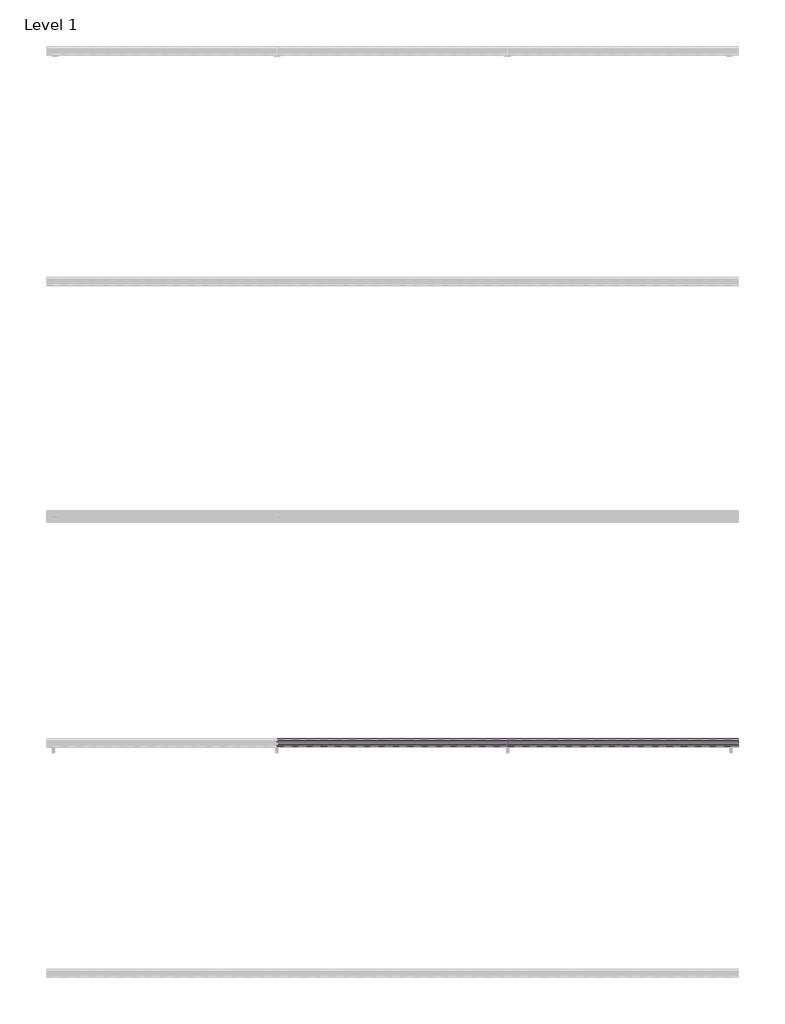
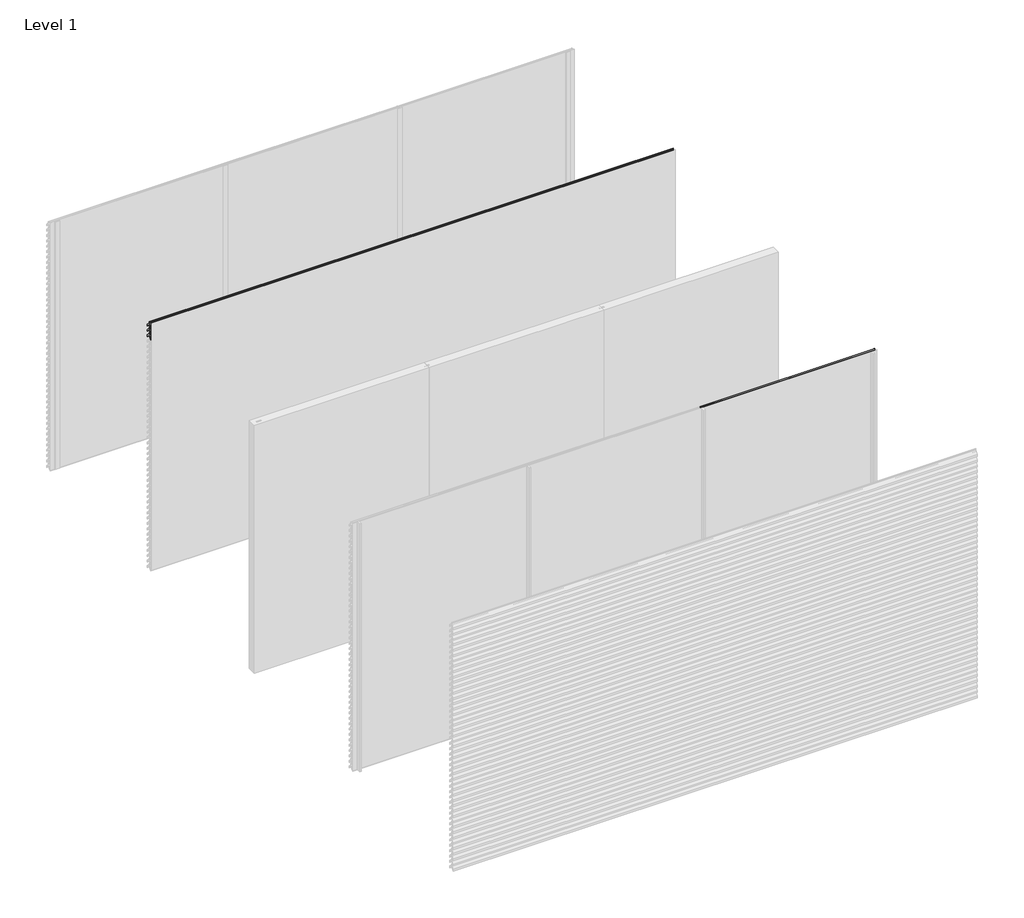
# One storey, part 7 of 9: 85 proxies.
"""IFC4 building model written with IfcOpenShell, lengths in millimetres."""

from ifc_helpers import new_model, si_unit, frame, origin, place, context, project, spatial, polyline, outline, extrude, element, save

model = new_model("IFC4")

# Units and contexts
model_context = context("Model", 3, world=origin())
ifc_project = project(units=[si_unit("LENGTHUNIT", "METRE", prefix="MILLI")], contexts=[model_context])

# Site, building, storey
site = spatial("IfcSite", under=ifc_project)
building = spatial("IfcBuilding", under=site)
storey = spatial("IfcBuildingStorey", under=building, Name="Level 1", Elevation=0.0)

# Proxies
placement = place(None, origin())
element("IfcBuildingElementProxy", 1, Name="Wall Sweeps", at=placement, inside=storey, context=model_context, shape_type="SweptSolid", body=[
    extrude(outline(polyline([(-1926.0, 2942.0), (-1926.0, 2919.0), (-1961.5, 2954.5), (-1997.0, 2919.0), (-1997.0, 2942.0), (-1962.5, 2976.5), (-1962.5, 2990.0), (-1960.5, 2990.0), (-1960.5, 2976.5), (-1926.0, 2942.0)])), frame((0.0, 0.0, 0.0), z_axis=(1.0, 0.0, 0.0), x_axis=(0.0, 1.0, 0.0)), (0.0, 0.0, 1.0), 6000.0),
])
element("IfcBuildingElementProxy", 2, Name="Wall Sweeps", at=placement, inside=storey, context=model_context, shape_type="SweptSolid", body=[
    extrude(outline(polyline([(-1926.0, 2877.0), (-1926.0, 2854.0), (-1961.5, 2889.5), (-1997.0, 2854.0), (-1997.0, 2877.0), (-1962.5, 2911.5), (-1962.5, 2925.0), (-1960.5, 2925.0), (-1960.5, 2911.5), (-1926.0, 2877.0)])), frame((0.0, 0.0, 0.0), z_axis=(1.0, 0.0, 0.0), x_axis=(0.0, 1.0, 0.0)), (0.0, 0.0, 1.0), 6000.0),
])
element("IfcBuildingElementProxy", 3, Name="Wall Sweeps", at=placement, inside=storey, context=model_context, shape_type="SweptSolid", body=[
    extrude(outline(polyline([(-1926.0, 2812.0), (-1926.0, 2789.0), (-1961.5, 2824.5), (-1997.0, 2789.0), (-1997.0, 2812.0), (-1962.5, 2846.5), (-1962.5, 2860.0), (-1960.5, 2860.0), (-1960.5, 2846.5), (-1926.0, 2812.0)])), frame((0.0, 0.0, 0.0), z_axis=(1.0, 0.0, 0.0), x_axis=(0.0, 1.0, 0.0)), (0.0, 0.0, 1.0), 6000.0),
])
element("IfcBuildingElementProxy", 4, Name="Wall Sweeps", at=placement, inside=storey, context=model_context, shape_type="SweptSolid", body=[
    extrude(outline(polyline([(-5926.0, 2292.0), (-5926.0, 2269.0), (-5961.5, 2304.5), (-5997.0, 2269.0), (-5997.0, 2292.0), (-5962.5, 2326.5), (-5962.5, 2340.0), (-5960.5, 2340.0), (-5960.5, 2326.5), (-5926.0, 2292.0)])), frame((2000.0, 0.0, 0.0), z_axis=(1.0, 0.0, 0.0), x_axis=(0.0, 1.0, 0.0)), (0.0, 0.0, 1.0), 2000.0),
])
element("IfcBuildingElementProxy", 5, Name="Wall Sweeps", at=placement, inside=storey, context=model_context, shape_type="SweptSolid", body=[
    extrude(outline(polyline([(-5926.0, 2227.0), (-5926.0, 2204.0), (-5961.5, 2239.5), (-5997.0, 2204.0), (-5997.0, 2227.0), (-5962.5, 2261.5), (-5962.5, 2275.0), (-5960.5, 2275.0), (-5960.5, 2261.5), (-5926.0, 2227.0)])), frame((2000.0, 0.0, 0.0), z_axis=(1.0, 0.0, 0.0), x_axis=(0.0, 1.0, 0.0)), (0.0, 0.0, 1.0), 2000.0),
])
element("IfcBuildingElementProxy", 6, Name="Wall Sweeps", at=placement, inside=storey, context=model_context, shape_type="SweptSolid", body=[
    extrude(outline(polyline([(-5926.0, 2162.0), (-5926.0, 2139.0), (-5961.5, 2174.5), (-5997.0, 2139.0), (-5997.0, 2162.0), (-5962.5, 2196.5), (-5962.5, 2210.0), (-5960.5, 2210.0), (-5960.5, 2196.5), (-5926.0, 2162.0)])), frame((2000.0, 0.0, 0.0), z_axis=(1.0, 0.0, 0.0), x_axis=(0.0, 1.0, 0.0)), (0.0, 0.0, 1.0), 2000.0),
])
element("IfcBuildingElementProxy", 7, Name="Wall Sweeps", at=placement, inside=storey, context=model_context, shape_type="SweptSolid", body=[
    extrude(outline(polyline([(-5926.0, 2097.0), (-5926.0, 2074.0), (-5961.5, 2109.5), (-5997.0, 2074.0), (-5997.0, 2097.0), (-5962.5, 2131.5), (-5962.5, 2145.0), (-5960.5, 2145.0), (-5960.5, 2131.5), (-5926.0, 2097.0)])), frame((2000.0, 0.0, 0.0), z_axis=(1.0, 0.0, 0.0), x_axis=(0.0, 1.0, 0.0)), (0.0, 0.0, 1.0), 2000.0),
])
element("IfcBuildingElementProxy", 8, Name="Wall Sweeps", at=placement, inside=storey, context=model_context, shape_type="SweptSolid", body=[
    extrude(outline(polyline([(-5926.0, 2032.0), (-5926.0, 2009.0), (-5961.5, 2044.5), (-5997.0, 2009.0), (-5997.0, 2032.0), (-5962.5, 2066.5), (-5962.5, 2080.0), (-5960.5, 2080.0), (-5960.5, 2066.5), (-5926.0, 2032.0)])), frame((2000.0, 0.0, 0.0), z_axis=(1.0, 0.0, 0.0), x_axis=(0.0, 1.0, 0.0)), (0.0, 0.0, 1.0), 2000.0),
])
element("IfcBuildingElementProxy", 9, Name="Wall Sweeps", at=placement, inside=storey, context=model_context, shape_type="SweptSolid", body=[
    extrude(outline(polyline([(-5926.0, 1967.0), (-5926.0, 1944.0), (-5961.5, 1979.5), (-5997.0, 1944.0), (-5997.0, 1967.0), (-5962.5, 2001.5), (-5962.5, 2015.0), (-5960.5, 2015.0), (-5960.5, 2001.5), (-5926.0, 1967.0)])), frame((2000.0, 0.0, 0.0), z_axis=(1.0, 0.0, 0.0), x_axis=(0.0, 1.0, 0.0)), (0.0, 0.0, 1.0), 2000.0),
])
element("IfcBuildingElementProxy", 10, Name="Wall Sweeps", at=placement, inside=storey, context=model_context, shape_type="SweptSolid", body=[
    extrude(outline(polyline([(-5926.0, 1902.0), (-5926.0, 1879.0), (-5961.5, 1914.5), (-5997.0, 1879.0), (-5997.0, 1902.0), (-5962.5, 1936.5), (-5962.5, 1950.0), (-5960.5, 1950.0), (-5960.5, 1936.5), (-5926.0, 1902.0)])), frame((2000.0, 0.0, 0.0), z_axis=(1.0, 0.0, 0.0), x_axis=(0.0, 1.0, 0.0)), (0.0, 0.0, 1.0), 2000.0),
])
element("IfcBuildingElementProxy", 11, Name="Wall Sweeps", at=placement, inside=storey, context=model_context, shape_type="SweptSolid", body=[
    extrude(outline(polyline([(-5926.0, 1837.0), (-5926.0, 1814.0), (-5961.5, 1849.5), (-5997.0, 1814.0), (-5997.0, 1837.0), (-5962.5, 1871.5), (-5962.5, 1885.0), (-5960.5, 1885.0), (-5960.5, 1871.5), (-5926.0, 1837.0)])), frame((2000.0, 0.0, 0.0), z_axis=(1.0, 0.0, 0.0), x_axis=(0.0, 1.0, 0.0)), (0.0, 0.0, 1.0), 2000.0),
])
element("IfcBuildingElementProxy", 12, Name="Wall Sweeps", at=placement, inside=storey, context=model_context, shape_type="SweptSolid", body=[
    extrude(outline(polyline([(-5926.0, 1772.0), (-5926.0, 1749.0), (-5961.5, 1784.5), (-5997.0, 1749.0), (-5997.0, 1772.0), (-5962.5, 1806.5), (-5962.5, 1820.0), (-5960.5, 1820.0), (-5960.5, 1806.5), (-5926.0, 1772.0)])), frame((2000.0, 0.0, 0.0), z_axis=(1.0, 0.0, 0.0), x_axis=(0.0, 1.0, 0.0)), (0.0, 0.0, 1.0), 2000.0),
])
element("IfcBuildingElementProxy", 13, Name="Wall Sweeps", at=placement, inside=storey, context=model_context, shape_type="SweptSolid", body=[
    extrude(outline(polyline([(-5926.0, 1707.0), (-5926.0, 1684.0), (-5961.5, 1719.5), (-5997.0, 1684.0), (-5997.0, 1707.0), (-5962.5, 1741.5), (-5962.5, 1755.0), (-5960.5, 1755.0), (-5960.5, 1741.5), (-5926.0, 1707.0)])), frame((2000.0, 0.0, 0.0), z_axis=(1.0, 0.0, 0.0), x_axis=(0.0, 1.0, 0.0)), (0.0, 0.0, 1.0), 2000.0),
])
element("IfcBuildingElementProxy", 14, Name="Wall Sweeps", at=placement, inside=storey, context=model_context, shape_type="SweptSolid", body=[
    extrude(outline(polyline([(-5926.0, 1642.0), (-5926.0, 1619.0), (-5961.5, 1654.5), (-5997.0, 1619.0), (-5997.0, 1642.0), (-5962.5, 1676.5), (-5962.5, 1690.0), (-5960.5, 1690.0), (-5960.5, 1676.5), (-5926.0, 1642.0)])), frame((2000.0, 0.0, 0.0), z_axis=(1.0, 0.0, 0.0), x_axis=(0.0, 1.0, 0.0)), (0.0, 0.0, 1.0), 2000.0),
])
element("IfcBuildingElementProxy", 15, Name="Wall Sweeps", at=placement, inside=storey, context=model_context, shape_type="SweptSolid", body=[
    extrude(outline(polyline([(-5926.0, 1577.0), (-5926.0, 1554.0), (-5961.5, 1589.5), (-5997.0, 1554.0), (-5997.0, 1577.0), (-5962.5, 1611.5), (-5962.5, 1625.0), (-5960.5, 1625.0), (-5960.5, 1611.5), (-5926.0, 1577.0)])), frame((2000.0, 0.0, 0.0), z_axis=(1.0, 0.0, 0.0), x_axis=(0.0, 1.0, 0.0)), (0.0, 0.0, 1.0), 2000.0),
])
element("IfcBuildingElementProxy", 16, Name="Wall Sweeps", at=placement, inside=storey, context=model_context, shape_type="SweptSolid", body=[
    extrude(outline(polyline([(-5926.0, 1512.0), (-5926.0, 1489.0), (-5961.5, 1524.5), (-5997.0, 1489.0), (-5997.0, 1512.0), (-5962.5, 1546.5), (-5962.5, 1560.0), (-5960.5, 1560.0), (-5960.5, 1546.5), (-5926.0, 1512.0)])), frame((2000.0, 0.0, 0.0), z_axis=(1.0, 0.0, 0.0), x_axis=(0.0, 1.0, 0.0)), (0.0, 0.0, 1.0), 2000.0),
])
element("IfcBuildingElementProxy", 17, Name="Wall Sweeps", at=placement, inside=storey, context=model_context, shape_type="SweptSolid", body=[
    extrude(outline(polyline([(-5926.0, 1447.0), (-5926.0, 1424.0), (-5961.5, 1459.5), (-5997.0, 1424.0), (-5997.0, 1447.0), (-5962.5, 1481.5), (-5962.5, 1495.0), (-5960.5, 1495.0), (-5960.5, 1481.5), (-5926.0, 1447.0)])), frame((2000.0, 0.0, 0.0), z_axis=(1.0, 0.0, 0.0), x_axis=(0.0, 1.0, 0.0)), (0.0, 0.0, 1.0), 2000.0),
])
element("IfcBuildingElementProxy", 18, Name="Wall Sweeps", at=placement, inside=storey, context=model_context, shape_type="SweptSolid", body=[
    extrude(outline(polyline([(-5926.0, 1382.0), (-5926.0, 1359.0), (-5961.5, 1394.5), (-5997.0, 1359.0), (-5997.0, 1382.0), (-5962.5, 1416.5), (-5962.5, 1430.0), (-5960.5, 1430.0), (-5960.5, 1416.5), (-5926.0, 1382.0)])), frame((2000.0, 0.0, 0.0), z_axis=(1.0, 0.0, 0.0), x_axis=(0.0, 1.0, 0.0)), (0.0, 0.0, 1.0), 2000.0),
])
element("IfcBuildingElementProxy", 19, Name="Wall Sweeps", at=placement, inside=storey, context=model_context, shape_type="SweptSolid", body=[
    extrude(outline(polyline([(-5926.0, 1317.0), (-5926.0, 1294.0), (-5961.5, 1329.5), (-5997.0, 1294.0), (-5997.0, 1317.0), (-5962.5, 1351.5), (-5962.5, 1365.0), (-5960.5, 1365.0), (-5960.5, 1351.5), (-5926.0, 1317.0)])), frame((2000.0, 0.0, 0.0), z_axis=(1.0, 0.0, 0.0), x_axis=(0.0, 1.0, 0.0)), (0.0, 0.0, 1.0), 2000.0),
])
element("IfcBuildingElementProxy", 20, Name="Wall Sweeps", at=placement, inside=storey, context=model_context, shape_type="SweptSolid", body=[
    extrude(outline(polyline([(-5926.0, 1252.0), (-5926.0, 1229.0), (-5961.5, 1264.5), (-5997.0, 1229.0), (-5997.0, 1252.0), (-5962.5, 1286.5), (-5962.5, 1300.0), (-5960.5, 1300.0), (-5960.5, 1286.5), (-5926.0, 1252.0)])), frame((2000.0, 0.0, 0.0), z_axis=(1.0, 0.0, 0.0), x_axis=(0.0, 1.0, 0.0)), (0.0, 0.0, 1.0), 2000.0),
])
element("IfcBuildingElementProxy", 21, Name="Wall Sweeps", at=placement, inside=storey, context=model_context, shape_type="SweptSolid", body=[
    extrude(outline(polyline([(-5926.0, 1187.0), (-5926.0, 1164.0), (-5961.5, 1199.5), (-5997.0, 1164.0), (-5997.0, 1187.0), (-5962.5, 1221.5), (-5962.5, 1235.0), (-5960.5, 1235.0), (-5960.5, 1221.5), (-5926.0, 1187.0)])), frame((2000.0, 0.0, 0.0), z_axis=(1.0, 0.0, 0.0), x_axis=(0.0, 1.0, 0.0)), (0.0, 0.0, 1.0), 2000.0),
])
element("IfcBuildingElementProxy", 22, Name="Wall Sweeps", at=placement, inside=storey, context=model_context, shape_type="SweptSolid", body=[
    extrude(outline(polyline([(-5926.0, 1122.0), (-5926.0, 1099.0), (-5961.5, 1134.5), (-5997.0, 1099.0), (-5997.0, 1122.0), (-5962.5, 1156.5), (-5962.5, 1170.0), (-5960.5, 1170.0), (-5960.5, 1156.5), (-5926.0, 1122.0)])), frame((2000.0, 0.0, 0.0), z_axis=(1.0, 0.0, 0.0), x_axis=(0.0, 1.0, 0.0)), (0.0, 0.0, 1.0), 2000.0),
])
element("IfcBuildingElementProxy", 23, Name="Wall Sweeps", at=placement, inside=storey, context=model_context, shape_type="SweptSolid", body=[
    extrude(outline(polyline([(-5926.0, 1057.0), (-5926.0, 1034.0), (-5961.5, 1069.5), (-5997.0, 1034.0), (-5997.0, 1057.0), (-5962.5, 1091.5), (-5962.5, 1105.0), (-5960.5, 1105.0), (-5960.5, 1091.5), (-5926.0, 1057.0)])), frame((2000.0, 0.0, 0.0), z_axis=(1.0, 0.0, 0.0), x_axis=(0.0, 1.0, 0.0)), (0.0, 0.0, 1.0), 2000.0),
])
element("IfcBuildingElementProxy", 24, Name="Wall Sweeps", at=placement, inside=storey, context=model_context, shape_type="SweptSolid", body=[
    extrude(outline(polyline([(-5926.0, 992.0), (-5926.0, 969.0), (-5961.5, 1004.5), (-5997.0, 969.0), (-5997.0, 992.0), (-5962.5, 1026.5), (-5962.5, 1040.0), (-5960.5, 1040.0), (-5960.5, 1026.5), (-5926.0, 992.0)])), frame((2000.0, 0.0, 0.0), z_axis=(1.0, 0.0, 0.0), x_axis=(0.0, 1.0, 0.0)), (0.0, 0.0, 1.0), 2000.0),
])
element("IfcBuildingElementProxy", 25, Name="Wall Sweeps", at=placement, inside=storey, context=model_context, shape_type="SweptSolid", body=[
    extrude(outline(polyline([(-5926.0, 927.0), (-5926.0, 904.0), (-5961.5, 939.5), (-5997.0, 904.0), (-5997.0, 927.0), (-5962.5, 961.5), (-5962.5, 975.0), (-5960.5, 975.0), (-5960.5, 961.5), (-5926.0, 927.0)])), frame((2000.0, 0.0, 0.0), z_axis=(1.0, 0.0, 0.0), x_axis=(0.0, 1.0, 0.0)), (0.0, 0.0, 1.0), 2000.0),
])
element("IfcBuildingElementProxy", 26, Name="Wall Sweeps", at=placement, inside=storey, context=model_context, shape_type="SweptSolid", body=[
    extrude(outline(polyline([(-5926.0, 862.0), (-5926.0, 839.0), (-5961.5, 874.5), (-5997.0, 839.0), (-5997.0, 862.0), (-5962.5, 896.5), (-5962.5, 910.0), (-5960.5, 910.0), (-5960.5, 896.5), (-5926.0, 862.0)])), frame((2000.0, 0.0, 0.0), z_axis=(1.0, 0.0, 0.0), x_axis=(0.0, 1.0, 0.0)), (0.0, 0.0, 1.0), 2000.0),
])
element("IfcBuildingElementProxy", 27, Name="Wall Sweeps", at=placement, inside=storey, context=model_context, shape_type="SweptSolid", body=[
    extrude(outline(polyline([(-5926.0, 797.0), (-5926.0, 774.0), (-5961.5, 809.5), (-5997.0, 774.0), (-5997.0, 797.0), (-5962.5, 831.5), (-5962.5, 845.0), (-5960.5, 845.0), (-5960.5, 831.5), (-5926.0, 797.0)])), frame((2000.0, 0.0, 0.0), z_axis=(1.0, 0.0, 0.0), x_axis=(0.0, 1.0, 0.0)), (0.0, 0.0, 1.0), 2000.0),
])
element("IfcBuildingElementProxy", 28, Name="Wall Sweeps", at=placement, inside=storey, context=model_context, shape_type="SweptSolid", body=[
    extrude(outline(polyline([(-5926.0, 732.0), (-5926.0, 709.0), (-5961.5, 744.5), (-5997.0, 709.0), (-5997.0, 732.0), (-5962.5, 766.5), (-5962.5, 780.0), (-5960.5, 780.0), (-5960.5, 766.5), (-5926.0, 732.0)])), frame((2000.0, 0.0, 0.0), z_axis=(1.0, 0.0, 0.0), x_axis=(0.0, 1.0, 0.0)), (0.0, 0.0, 1.0), 2000.0),
])
element("IfcBuildingElementProxy", 29, Name="Wall Sweeps", at=placement, inside=storey, context=model_context, shape_type="SweptSolid", body=[
    extrude(outline(polyline([(-5926.0, 667.0), (-5926.0, 644.0), (-5961.5, 679.5), (-5997.0, 644.0), (-5997.0, 667.0), (-5962.5, 701.5), (-5962.5, 715.0), (-5960.5, 715.0), (-5960.5, 701.5), (-5926.0, 667.0)])), frame((2000.0, 0.0, 0.0), z_axis=(1.0, 0.0, 0.0), x_axis=(0.0, 1.0, 0.0)), (0.0, 0.0, 1.0), 2000.0),
])
element("IfcBuildingElementProxy", 30, Name="Wall Sweeps", at=placement, inside=storey, context=model_context, shape_type="SweptSolid", body=[
    extrude(outline(polyline([(-5926.0, 602.0), (-5926.0, 579.0), (-5961.5, 614.5), (-5997.0, 579.0), (-5997.0, 602.0), (-5962.5, 636.5), (-5962.5, 650.0), (-5960.5, 650.0), (-5960.5, 636.5), (-5926.0, 602.0)])), frame((2000.0, 0.0, 0.0), z_axis=(1.0, 0.0, 0.0), x_axis=(0.0, 1.0, 0.0)), (0.0, 0.0, 1.0), 2000.0),
])
element("IfcBuildingElementProxy", 31, Name="Wall Sweeps", at=placement, inside=storey, context=model_context, shape_type="SweptSolid", body=[
    extrude(outline(polyline([(-5926.0, 537.0), (-5926.0, 514.0), (-5961.5, 549.5), (-5997.0, 514.0), (-5997.0, 537.0), (-5962.5, 571.5), (-5962.5, 585.0), (-5960.5, 585.0), (-5960.5, 571.5), (-5926.0, 537.0)])), frame((2000.0, 0.0, 0.0), z_axis=(1.0, 0.0, 0.0), x_axis=(0.0, 1.0, 0.0)), (0.0, 0.0, 1.0), 2000.0),
])
element("IfcBuildingElementProxy", 32, Name="Wall Sweeps", at=placement, inside=storey, context=model_context, shape_type="SweptSolid", body=[
    extrude(outline(polyline([(-5926.0, 472.0), (-5926.0, 449.0), (-5961.5, 484.5), (-5997.0, 449.0), (-5997.0, 472.0), (-5962.5, 506.5), (-5962.5, 520.0), (-5960.5, 520.0), (-5960.5, 506.5), (-5926.0, 472.0)])), frame((2000.0, 0.0, 0.0), z_axis=(1.0, 0.0, 0.0), x_axis=(0.0, 1.0, 0.0)), (0.0, 0.0, 1.0), 2000.0),
])
element("IfcBuildingElementProxy", 33, Name="Wall Sweeps", at=placement, inside=storey, context=model_context, shape_type="SweptSolid", body=[
    extrude(outline(polyline([(-5926.0, 407.0), (-5926.0, 384.0), (-5961.5, 419.5), (-5997.0, 384.0), (-5997.0, 407.0), (-5962.5, 441.5), (-5962.5, 455.0), (-5960.5, 455.0), (-5960.5, 441.5), (-5926.0, 407.0)])), frame((2000.0, 0.0, 0.0), z_axis=(1.0, 0.0, 0.0), x_axis=(0.0, 1.0, 0.0)), (0.0, 0.0, 1.0), 2000.0),
])
element("IfcBuildingElementProxy", 34, Name="Wall Sweeps", at=placement, inside=storey, context=model_context, shape_type="SweptSolid", body=[
    extrude(outline(polyline([(-5926.0, 342.0), (-5926.0, 319.0), (-5961.5, 354.5), (-5997.0, 319.0), (-5997.0, 342.0), (-5962.5, 376.5), (-5962.5, 390.0), (-5960.5, 390.0), (-5960.5, 376.5), (-5926.0, 342.0)])), frame((2000.0, 0.0, 0.0), z_axis=(1.0, 0.0, 0.0), x_axis=(0.0, 1.0, 0.0)), (0.0, 0.0, 1.0), 2000.0),
])
element("IfcBuildingElementProxy", 35, Name="Wall Sweeps", at=placement, inside=storey, context=model_context, shape_type="SweptSolid", body=[
    extrude(outline(polyline([(-5926.0, 277.0), (-5926.0, 254.0), (-5961.5, 289.5), (-5997.0, 254.0), (-5997.0, 277.0), (-5962.5, 311.5), (-5962.5, 325.0), (-5960.5, 325.0), (-5960.5, 311.5), (-5926.0, 277.0)])), frame((2000.0, 0.0, 0.0), z_axis=(1.0, 0.0, 0.0), x_axis=(0.0, 1.0, 0.0)), (0.0, 0.0, 1.0), 2000.0),
])
element("IfcBuildingElementProxy", 36, Name="Wall Sweeps", at=placement, inside=storey, context=model_context, shape_type="SweptSolid", body=[
    extrude(outline(polyline([(-5926.0, 212.0), (-5926.0, 189.0), (-5961.5, 224.5), (-5997.0, 189.0), (-5997.0, 212.0), (-5962.5, 246.5), (-5962.5, 260.0), (-5960.5, 260.0), (-5960.5, 246.5), (-5926.0, 212.0)])), frame((2000.0, 0.0, 0.0), z_axis=(1.0, 0.0, 0.0), x_axis=(0.0, 1.0, 0.0)), (0.0, 0.0, 1.0), 2000.0),
])
element("IfcBuildingElementProxy", 37, Name="Wall Sweeps", at=placement, inside=storey, context=model_context, shape_type="SweptSolid", body=[
    extrude(outline(polyline([(-5926.0, 147.0), (-5926.0, 124.0), (-5961.5, 159.5), (-5997.0, 124.0), (-5997.0, 147.0), (-5962.5, 181.5), (-5962.5, 195.0), (-5960.5, 195.0), (-5960.5, 181.5), (-5926.0, 147.0)])), frame((2000.0, 0.0, 0.0), z_axis=(1.0, 0.0, 0.0), x_axis=(0.0, 1.0, 0.0)), (0.0, 0.0, 1.0), 2000.0),
])
element("IfcBuildingElementProxy", 38, Name="Wall Sweeps", at=placement, inside=storey, context=model_context, shape_type="SweptSolid", body=[
    extrude(outline(polyline([(-5926.0, 82.0), (-5926.0, 59.0), (-5961.5, 94.5), (-5997.0, 59.0), (-5997.0, 82.0), (-5962.5, 116.5), (-5962.5, 130.0), (-5960.5, 130.0), (-5960.5, 116.5), (-5926.0, 82.0)])), frame((2000.0, 0.0, 0.0), z_axis=(1.0, 0.0, 0.0), x_axis=(0.0, 1.0, 0.0)), (0.0, 0.0, 1.0), 2000.0),
])
element("IfcBuildingElementProxy", 39, Name="Wall Sweeps", at=placement, inside=storey, context=model_context, shape_type="SweptSolid", body=[
    extrude(outline(polyline([(-5926.0, 17.0), (-5926.0, -6.0), (-5961.5, 29.5), (-5997.0, -6.0), (-5997.0, 17.0), (-5962.5, 51.5), (-5962.5, 65.0), (-5960.5, 65.0), (-5960.5, 51.5), (-5926.0, 17.0)])), frame((2000.0, 0.0, 0.0), z_axis=(1.0, 0.0, 0.0), x_axis=(0.0, 1.0, 0.0)), (0.0, 0.0, 1.0), 2000.0),
])
element("IfcBuildingElementProxy", 40, Name="Wall Sweeps", at=placement, inside=storey, context=model_context, shape_type="SweptSolid", body=[
    extrude(outline(polyline([(-5926.0, 2942.0), (-5926.0, 2919.0), (-5961.5, 2954.5), (-5997.0, 2919.0), (-5997.0, 2942.0), (-5962.5, 2976.5), (-5962.5, 2990.0), (-5960.5, 2990.0), (-5960.5, 2976.5), (-5926.0, 2942.0)])), frame((4000.0, 0.0, 0.0), z_axis=(1.0, 0.0, 0.0), x_axis=(0.0, 1.0, 0.0)), (0.0, 0.0, 1.0), 2000.0),
])
element("IfcBuildingElementProxy", 41, Name="Wall Sweeps", at=placement, inside=storey, context=model_context, shape_type="SweptSolid", body=[
    extrude(outline(polyline([(-5926.0, 2877.0), (-5926.0, 2854.0), (-5961.5, 2889.5), (-5997.0, 2854.0), (-5997.0, 2877.0), (-5962.5, 2911.5), (-5962.5, 2925.0), (-5960.5, 2925.0), (-5960.5, 2911.5), (-5926.0, 2877.0)])), frame((4000.0, 0.0, 0.0), z_axis=(1.0, 0.0, 0.0), x_axis=(0.0, 1.0, 0.0)), (0.0, 0.0, 1.0), 2000.0),
])
element("IfcBuildingElementProxy", 42, Name="Wall Sweeps", at=placement, inside=storey, context=model_context, shape_type="SweptSolid", body=[
    extrude(outline(polyline([(-5926.0, 2812.0), (-5926.0, 2789.0), (-5961.5, 2824.5), (-5997.0, 2789.0), (-5997.0, 2812.0), (-5962.5, 2846.5), (-5962.5, 2860.0), (-5960.5, 2860.0), (-5960.5, 2846.5), (-5926.0, 2812.0)])), frame((4000.0, 0.0, 0.0), z_axis=(1.0, 0.0, 0.0), x_axis=(0.0, 1.0, 0.0)), (0.0, 0.0, 1.0), 2000.0),
])
element("IfcBuildingElementProxy", 43, Name="Wall Sweeps", at=placement, inside=storey, context=model_context, shape_type="SweptSolid", body=[
    extrude(outline(polyline([(-5926.0, 2747.0), (-5926.0, 2724.0), (-5961.5, 2759.5), (-5997.0, 2724.0), (-5997.0, 2747.0), (-5962.5, 2781.5), (-5962.5, 2795.0), (-5960.5, 2795.0), (-5960.5, 2781.5), (-5926.0, 2747.0)])), frame((4000.0, 0.0, 0.0), z_axis=(1.0, 0.0, 0.0), x_axis=(0.0, 1.0, 0.0)), (0.0, 0.0, 1.0), 2000.0),
])
element("IfcBuildingElementProxy", 44, Name="Wall Sweeps", at=placement, inside=storey, context=model_context, shape_type="SweptSolid", body=[
    extrude(outline(polyline([(-5926.0, 2682.0), (-5926.0, 2659.0), (-5961.5, 2694.5), (-5997.0, 2659.0), (-5997.0, 2682.0), (-5962.5, 2716.5), (-5962.5, 2730.0), (-5960.5, 2730.0), (-5960.5, 2716.5), (-5926.0, 2682.0)])), frame((4000.0, 0.0, 0.0), z_axis=(1.0, 0.0, 0.0), x_axis=(0.0, 1.0, 0.0)), (0.0, 0.0, 1.0), 2000.0),
])
element("IfcBuildingElementProxy", 45, Name="Wall Sweeps", at=placement, inside=storey, context=model_context, shape_type="SweptSolid", body=[
    extrude(outline(polyline([(-5926.0, 2617.0), (-5926.0, 2594.0), (-5961.5, 2629.5), (-5997.0, 2594.0), (-5997.0, 2617.0), (-5962.5, 2651.5), (-5962.5, 2665.0), (-5960.5, 2665.0), (-5960.5, 2651.5), (-5926.0, 2617.0)])), frame((4000.0, 0.0, 0.0), z_axis=(1.0, 0.0, 0.0), x_axis=(0.0, 1.0, 0.0)), (0.0, 0.0, 1.0), 2000.0),
])
element("IfcBuildingElementProxy", 46, Name="Wall Sweeps", at=placement, inside=storey, context=model_context, shape_type="SweptSolid", body=[
    extrude(outline(polyline([(-5926.0, 2552.0), (-5926.0, 2529.0), (-5961.5, 2564.5), (-5997.0, 2529.0), (-5997.0, 2552.0), (-5962.5, 2586.5), (-5962.5, 2600.0), (-5960.5, 2600.0), (-5960.5, 2586.5), (-5926.0, 2552.0)])), frame((4000.0, 0.0, 0.0), z_axis=(1.0, 0.0, 0.0), x_axis=(0.0, 1.0, 0.0)), (0.0, 0.0, 1.0), 2000.0),
])
element("IfcBuildingElementProxy", 47, Name="Wall Sweeps", at=placement, inside=storey, context=model_context, shape_type="SweptSolid", body=[
    extrude(outline(polyline([(-5926.0, 2487.0), (-5926.0, 2464.0), (-5961.5, 2499.5), (-5997.0, 2464.0), (-5997.0, 2487.0), (-5962.5, 2521.5), (-5962.5, 2535.0), (-5960.5, 2535.0), (-5960.5, 2521.5), (-5926.0, 2487.0)])), frame((4000.0, 0.0, 0.0), z_axis=(1.0, 0.0, 0.0), x_axis=(0.0, 1.0, 0.0)), (0.0, 0.0, 1.0), 2000.0),
])
element("IfcBuildingElementProxy", 48, Name="Wall Sweeps", at=placement, inside=storey, context=model_context, shape_type="SweptSolid", body=[
    extrude(outline(polyline([(-5926.0, 2422.0), (-5926.0, 2399.0), (-5961.5, 2434.5), (-5997.0, 2399.0), (-5997.0, 2422.0), (-5962.5, 2456.5), (-5962.5, 2470.0), (-5960.5, 2470.0), (-5960.5, 2456.5), (-5926.0, 2422.0)])), frame((4000.0, 0.0, 0.0), z_axis=(1.0, 0.0, 0.0), x_axis=(0.0, 1.0, 0.0)), (0.0, 0.0, 1.0), 2000.0),
])
element("IfcBuildingElementProxy", 49, Name="Wall Sweeps", at=placement, inside=storey, context=model_context, shape_type="SweptSolid", body=[
    extrude(outline(polyline([(-5926.0, 2357.0), (-5926.0, 2334.0), (-5961.5, 2369.5), (-5997.0, 2334.0), (-5997.0, 2357.0), (-5962.5, 2391.5), (-5962.5, 2405.0), (-5960.5, 2405.0), (-5960.5, 2391.5), (-5926.0, 2357.0)])), frame((4000.0, 0.0, 0.0), z_axis=(1.0, 0.0, 0.0), x_axis=(0.0, 1.0, 0.0)), (0.0, 0.0, 1.0), 2000.0),
])
element("IfcBuildingElementProxy", 50, Name="Wall Sweeps", at=placement, inside=storey, context=model_context, shape_type="SweptSolid", body=[
    extrude(outline(polyline([(-5926.0, 2292.0), (-5926.0, 2269.0), (-5961.5, 2304.5), (-5997.0, 2269.0), (-5997.0, 2292.0), (-5962.5, 2326.5), (-5962.5, 2340.0), (-5960.5, 2340.0), (-5960.5, 2326.5), (-5926.0, 2292.0)])), frame((4000.0, 0.0, 0.0), z_axis=(1.0, 0.0, 0.0), x_axis=(0.0, 1.0, 0.0)), (0.0, 0.0, 1.0), 2000.0),
])
element("IfcBuildingElementProxy", 51, Name="Wall Sweeps", at=placement, inside=storey, context=model_context, shape_type="SweptSolid", body=[
    extrude(outline(polyline([(-5926.0, 2227.0), (-5926.0, 2204.0), (-5961.5, 2239.5), (-5997.0, 2204.0), (-5997.0, 2227.0), (-5962.5, 2261.5), (-5962.5, 2275.0), (-5960.5, 2275.0), (-5960.5, 2261.5), (-5926.0, 2227.0)])), frame((4000.0, 0.0, 0.0), z_axis=(1.0, 0.0, 0.0), x_axis=(0.0, 1.0, 0.0)), (0.0, 0.0, 1.0), 2000.0),
])
element("IfcBuildingElementProxy", 52, Name="Wall Sweeps", at=placement, inside=storey, context=model_context, shape_type="SweptSolid", body=[
    extrude(outline(polyline([(-5926.0, 2162.0), (-5926.0, 2139.0), (-5961.5, 2174.5), (-5997.0, 2139.0), (-5997.0, 2162.0), (-5962.5, 2196.5), (-5962.5, 2210.0), (-5960.5, 2210.0), (-5960.5, 2196.5), (-5926.0, 2162.0)])), frame((4000.0, 0.0, 0.0), z_axis=(1.0, 0.0, 0.0), x_axis=(0.0, 1.0, 0.0)), (0.0, 0.0, 1.0), 2000.0),
])
element("IfcBuildingElementProxy", 53, Name="Wall Sweeps", at=placement, inside=storey, context=model_context, shape_type="SweptSolid", body=[
    extrude(outline(polyline([(-5926.0, 2097.0), (-5926.0, 2074.0), (-5961.5, 2109.5), (-5997.0, 2074.0), (-5997.0, 2097.0), (-5962.5, 2131.5), (-5962.5, 2145.0), (-5960.5, 2145.0), (-5960.5, 2131.5), (-5926.0, 2097.0)])), frame((4000.0, 0.0, 0.0), z_axis=(1.0, 0.0, 0.0), x_axis=(0.0, 1.0, 0.0)), (0.0, 0.0, 1.0), 2000.0),
])
element("IfcBuildingElementProxy", 54, Name="Wall Sweeps", at=placement, inside=storey, context=model_context, shape_type="SweptSolid", body=[
    extrude(outline(polyline([(-5926.0, 2032.0), (-5926.0, 2009.0), (-5961.5, 2044.5), (-5997.0, 2009.0), (-5997.0, 2032.0), (-5962.5, 2066.5), (-5962.5, 2080.0), (-5960.5, 2080.0), (-5960.5, 2066.5), (-5926.0, 2032.0)])), frame((4000.0, 0.0, 0.0), z_axis=(1.0, 0.0, 0.0), x_axis=(0.0, 1.0, 0.0)), (0.0, 0.0, 1.0), 2000.0),
])
element("IfcBuildingElementProxy", 55, Name="Wall Sweeps", at=placement, inside=storey, context=model_context, shape_type="SweptSolid", body=[
    extrude(outline(polyline([(-5926.0, 1967.0), (-5926.0, 1944.0), (-5961.5, 1979.5), (-5997.0, 1944.0), (-5997.0, 1967.0), (-5962.5, 2001.5), (-5962.5, 2015.0), (-5960.5, 2015.0), (-5960.5, 2001.5), (-5926.0, 1967.0)])), frame((4000.0, 0.0, 0.0), z_axis=(1.0, 0.0, 0.0), x_axis=(0.0, 1.0, 0.0)), (0.0, 0.0, 1.0), 2000.0),
])
element("IfcBuildingElementProxy", 56, Name="Wall Sweeps", at=placement, inside=storey, context=model_context, shape_type="SweptSolid", body=[
    extrude(outline(polyline([(-5926.0, 1902.0), (-5926.0, 1879.0), (-5961.5, 1914.5), (-5997.0, 1879.0), (-5997.0, 1902.0), (-5962.5, 1936.5), (-5962.5, 1950.0), (-5960.5, 1950.0), (-5960.5, 1936.5), (-5926.0, 1902.0)])), frame((4000.0, 0.0, 0.0), z_axis=(1.0, 0.0, 0.0), x_axis=(0.0, 1.0, 0.0)), (0.0, 0.0, 1.0), 2000.0),
])
element("IfcBuildingElementProxy", 57, Name="Wall Sweeps", at=placement, inside=storey, context=model_context, shape_type="SweptSolid", body=[
    extrude(outline(polyline([(-5926.0, 1837.0), (-5926.0, 1814.0), (-5961.5, 1849.5), (-5997.0, 1814.0), (-5997.0, 1837.0), (-5962.5, 1871.5), (-5962.5, 1885.0), (-5960.5, 1885.0), (-5960.5, 1871.5), (-5926.0, 1837.0)])), frame((4000.0, 0.0, 0.0), z_axis=(1.0, 0.0, 0.0), x_axis=(0.0, 1.0, 0.0)), (0.0, 0.0, 1.0), 2000.0),
])
element("IfcBuildingElementProxy", 58, Name="Wall Sweeps", at=placement, inside=storey, context=model_context, shape_type="SweptSolid", body=[
    extrude(outline(polyline([(-5926.0, 1772.0), (-5926.0, 1749.0), (-5961.5, 1784.5), (-5997.0, 1749.0), (-5997.0, 1772.0), (-5962.5, 1806.5), (-5962.5, 1820.0), (-5960.5, 1820.0), (-5960.5, 1806.5), (-5926.0, 1772.0)])), frame((4000.0, 0.0, 0.0), z_axis=(1.0, 0.0, 0.0), x_axis=(0.0, 1.0, 0.0)), (0.0, 0.0, 1.0), 2000.0),
])
element("IfcBuildingElementProxy", 59, Name="Wall Sweeps", at=placement, inside=storey, context=model_context, shape_type="SweptSolid", body=[
    extrude(outline(polyline([(-5926.0, 1707.0), (-5926.0, 1684.0), (-5961.5, 1719.5), (-5997.0, 1684.0), (-5997.0, 1707.0), (-5962.5, 1741.5), (-5962.5, 1755.0), (-5960.5, 1755.0), (-5960.5, 1741.5), (-5926.0, 1707.0)])), frame((4000.0, 0.0, 0.0), z_axis=(1.0, 0.0, 0.0), x_axis=(0.0, 1.0, 0.0)), (0.0, 0.0, 1.0), 2000.0),
])
element("IfcBuildingElementProxy", 60, Name="Wall Sweeps", at=placement, inside=storey, context=model_context, shape_type="SweptSolid", body=[
    extrude(outline(polyline([(-5926.0, 1642.0), (-5926.0, 1619.0), (-5961.5, 1654.5), (-5997.0, 1619.0), (-5997.0, 1642.0), (-5962.5, 1676.5), (-5962.5, 1690.0), (-5960.5, 1690.0), (-5960.5, 1676.5), (-5926.0, 1642.0)])), frame((4000.0, 0.0, 0.0), z_axis=(1.0, 0.0, 0.0), x_axis=(0.0, 1.0, 0.0)), (0.0, 0.0, 1.0), 2000.0),
])
element("IfcBuildingElementProxy", 61, Name="Wall Sweeps", at=placement, inside=storey, context=model_context, shape_type="SweptSolid", body=[
    extrude(outline(polyline([(-5926.0, 1577.0), (-5926.0, 1554.0), (-5961.5, 1589.5), (-5997.0, 1554.0), (-5997.0, 1577.0), (-5962.5, 1611.5), (-5962.5, 1625.0), (-5960.5, 1625.0), (-5960.5, 1611.5), (-5926.0, 1577.0)])), frame((4000.0, 0.0, 0.0), z_axis=(1.0, 0.0, 0.0), x_axis=(0.0, 1.0, 0.0)), (0.0, 0.0, 1.0), 2000.0),
])
element("IfcBuildingElementProxy", 62, Name="Wall Sweeps", at=placement, inside=storey, context=model_context, shape_type="SweptSolid", body=[
    extrude(outline(polyline([(-5926.0, 1512.0), (-5926.0, 1489.0), (-5961.5, 1524.5), (-5997.0, 1489.0), (-5997.0, 1512.0), (-5962.5, 1546.5), (-5962.5, 1560.0), (-5960.5, 1560.0), (-5960.5, 1546.5), (-5926.0, 1512.0)])), frame((4000.0, 0.0, 0.0), z_axis=(1.0, 0.0, 0.0), x_axis=(0.0, 1.0, 0.0)), (0.0, 0.0, 1.0), 2000.0),
])
element("IfcBuildingElementProxy", 63, Name="Wall Sweeps", at=placement, inside=storey, context=model_context, shape_type="SweptSolid", body=[
    extrude(outline(polyline([(-5926.0, 1447.0), (-5926.0, 1424.0), (-5961.5, 1459.5), (-5997.0, 1424.0), (-5997.0, 1447.0), (-5962.5, 1481.5), (-5962.5, 1495.0), (-5960.5, 1495.0), (-5960.5, 1481.5), (-5926.0, 1447.0)])), frame((4000.0, 0.0, 0.0), z_axis=(1.0, 0.0, 0.0), x_axis=(0.0, 1.0, 0.0)), (0.0, 0.0, 1.0), 2000.0),
])
element("IfcBuildingElementProxy", 64, Name="Wall Sweeps", at=placement, inside=storey, context=model_context, shape_type="SweptSolid", body=[
    extrude(outline(polyline([(-5926.0, 1382.0), (-5926.0, 1359.0), (-5961.5, 1394.5), (-5997.0, 1359.0), (-5997.0, 1382.0), (-5962.5, 1416.5), (-5962.5, 1430.0), (-5960.5, 1430.0), (-5960.5, 1416.5), (-5926.0, 1382.0)])), frame((4000.0, 0.0, 0.0), z_axis=(1.0, 0.0, 0.0), x_axis=(0.0, 1.0, 0.0)), (0.0, 0.0, 1.0), 2000.0),
])
element("IfcBuildingElementProxy", 65, Name="Wall Sweeps", at=placement, inside=storey, context=model_context, shape_type="SweptSolid", body=[
    extrude(outline(polyline([(-5926.0, 1317.0), (-5926.0, 1294.0), (-5961.5, 1329.5), (-5997.0, 1294.0), (-5997.0, 1317.0), (-5962.5, 1351.5), (-5962.5, 1365.0), (-5960.5, 1365.0), (-5960.5, 1351.5), (-5926.0, 1317.0)])), frame((4000.0, 0.0, 0.0), z_axis=(1.0, 0.0, 0.0), x_axis=(0.0, 1.0, 0.0)), (0.0, 0.0, 1.0), 2000.0),
])
element("IfcBuildingElementProxy", 66, Name="Wall Sweeps", at=placement, inside=storey, context=model_context, shape_type="SweptSolid", body=[
    extrude(outline(polyline([(-5926.0, 1252.0), (-5926.0, 1229.0), (-5961.5, 1264.5), (-5997.0, 1229.0), (-5997.0, 1252.0), (-5962.5, 1286.5), (-5962.5, 1300.0), (-5960.5, 1300.0), (-5960.5, 1286.5), (-5926.0, 1252.0)])), frame((4000.0, 0.0, 0.0), z_axis=(1.0, 0.0, 0.0), x_axis=(0.0, 1.0, 0.0)), (0.0, 0.0, 1.0), 2000.0),
])
element("IfcBuildingElementProxy", 67, Name="Wall Sweeps", at=placement, inside=storey, context=model_context, shape_type="SweptSolid", body=[
    extrude(outline(polyline([(-5926.0, 1187.0), (-5926.0, 1164.0), (-5961.5, 1199.5), (-5997.0, 1164.0), (-5997.0, 1187.0), (-5962.5, 1221.5), (-5962.5, 1235.0), (-5960.5, 1235.0), (-5960.5, 1221.5), (-5926.0, 1187.0)])), frame((4000.0, 0.0, 0.0), z_axis=(1.0, 0.0, 0.0), x_axis=(0.0, 1.0, 0.0)), (0.0, 0.0, 1.0), 2000.0),
])
element("IfcBuildingElementProxy", 68, Name="Wall Sweeps", at=placement, inside=storey, context=model_context, shape_type="SweptSolid", body=[
    extrude(outline(polyline([(-5926.0, 1122.0), (-5926.0, 1099.0), (-5961.5, 1134.5), (-5997.0, 1099.0), (-5997.0, 1122.0), (-5962.5, 1156.5), (-5962.5, 1170.0), (-5960.5, 1170.0), (-5960.5, 1156.5), (-5926.0, 1122.0)])), frame((4000.0, 0.0, 0.0), z_axis=(1.0, 0.0, 0.0), x_axis=(0.0, 1.0, 0.0)), (0.0, 0.0, 1.0), 2000.0),
])
element("IfcBuildingElementProxy", 69, Name="Wall Sweeps", at=placement, inside=storey, context=model_context, shape_type="SweptSolid", body=[
    extrude(outline(polyline([(-5926.0, 1057.0), (-5926.0, 1034.0), (-5961.5, 1069.5), (-5997.0, 1034.0), (-5997.0, 1057.0), (-5962.5, 1091.5), (-5962.5, 1105.0), (-5960.5, 1105.0), (-5960.5, 1091.5), (-5926.0, 1057.0)])), frame((4000.0, 0.0, 0.0), z_axis=(1.0, 0.0, 0.0), x_axis=(0.0, 1.0, 0.0)), (0.0, 0.0, 1.0), 2000.0),
])
element("IfcBuildingElementProxy", 70, Name="Wall Sweeps", at=placement, inside=storey, context=model_context, shape_type="SweptSolid", body=[
    extrude(outline(polyline([(-5926.0, 992.0), (-5926.0, 969.0), (-5961.5, 1004.5), (-5997.0, 969.0), (-5997.0, 992.0), (-5962.5, 1026.5), (-5962.5, 1040.0), (-5960.5, 1040.0), (-5960.5, 1026.5), (-5926.0, 992.0)])), frame((4000.0, 0.0, 0.0), z_axis=(1.0, 0.0, 0.0), x_axis=(0.0, 1.0, 0.0)), (0.0, 0.0, 1.0), 2000.0),
])
element("IfcBuildingElementProxy", 71, Name="Wall Sweeps", at=placement, inside=storey, context=model_context, shape_type="SweptSolid", body=[
    extrude(outline(polyline([(-5926.0, 927.0), (-5926.0, 904.0), (-5961.5, 939.5), (-5997.0, 904.0), (-5997.0, 927.0), (-5962.5, 961.5), (-5962.5, 975.0), (-5960.5, 975.0), (-5960.5, 961.5), (-5926.0, 927.0)])), frame((4000.0, 0.0, 0.0), z_axis=(1.0, 0.0, 0.0), x_axis=(0.0, 1.0, 0.0)), (0.0, 0.0, 1.0), 2000.0),
])
element("IfcBuildingElementProxy", 72, Name="Wall Sweeps", at=placement, inside=storey, context=model_context, shape_type="SweptSolid", body=[
    extrude(outline(polyline([(-5926.0, 862.0), (-5926.0, 839.0), (-5961.5, 874.5), (-5997.0, 839.0), (-5997.0, 862.0), (-5962.5, 896.5), (-5962.5, 910.0), (-5960.5, 910.0), (-5960.5, 896.5), (-5926.0, 862.0)])), frame((4000.0, 0.0, 0.0), z_axis=(1.0, 0.0, 0.0), x_axis=(0.0, 1.0, 0.0)), (0.0, 0.0, 1.0), 2000.0),
])
element("IfcBuildingElementProxy", 73, Name="Wall Sweeps", at=placement, inside=storey, context=model_context, shape_type="SweptSolid", body=[
    extrude(outline(polyline([(-5926.0, 797.0), (-5926.0, 774.0), (-5961.5, 809.5), (-5997.0, 774.0), (-5997.0, 797.0), (-5962.5, 831.5), (-5962.5, 845.0), (-5960.5, 845.0), (-5960.5, 831.5), (-5926.0, 797.0)])), frame((4000.0, 0.0, 0.0), z_axis=(1.0, 0.0, 0.0), x_axis=(0.0, 1.0, 0.0)), (0.0, 0.0, 1.0), 2000.0),
])
element("IfcBuildingElementProxy", 74, Name="Wall Sweeps", at=placement, inside=storey, context=model_context, shape_type="SweptSolid", body=[
    extrude(outline(polyline([(-5926.0, 732.0), (-5926.0, 709.0), (-5961.5, 744.5), (-5997.0, 709.0), (-5997.0, 732.0), (-5962.5, 766.5), (-5962.5, 780.0), (-5960.5, 780.0), (-5960.5, 766.5), (-5926.0, 732.0)])), frame((4000.0, 0.0, 0.0), z_axis=(1.0, 0.0, 0.0), x_axis=(0.0, 1.0, 0.0)), (0.0, 0.0, 1.0), 2000.0),
])
element("IfcBuildingElementProxy", 75, Name="Wall Sweeps", at=placement, inside=storey, context=model_context, shape_type="SweptSolid", body=[
    extrude(outline(polyline([(-5926.0, 667.0), (-5926.0, 644.0), (-5961.5, 679.5), (-5997.0, 644.0), (-5997.0, 667.0), (-5962.5, 701.5), (-5962.5, 715.0), (-5960.5, 715.0), (-5960.5, 701.5), (-5926.0, 667.0)])), frame((4000.0, 0.0, 0.0), z_axis=(1.0, 0.0, 0.0), x_axis=(0.0, 1.0, 0.0)), (0.0, 0.0, 1.0), 2000.0),
])
element("IfcBuildingElementProxy", 76, Name="Wall Sweeps", at=placement, inside=storey, context=model_context, shape_type="SweptSolid", body=[
    extrude(outline(polyline([(-5926.0, 602.0), (-5926.0, 579.0), (-5961.5, 614.5), (-5997.0, 579.0), (-5997.0, 602.0), (-5962.5, 636.5), (-5962.5, 650.0), (-5960.5, 650.0), (-5960.5, 636.5), (-5926.0, 602.0)])), frame((4000.0, 0.0, 0.0), z_axis=(1.0, 0.0, 0.0), x_axis=(0.0, 1.0, 0.0)), (0.0, 0.0, 1.0), 2000.0),
])
element("IfcBuildingElementProxy", 77, Name="Wall Sweeps", at=placement, inside=storey, context=model_context, shape_type="SweptSolid", body=[
    extrude(outline(polyline([(-5926.0, 537.0), (-5926.0, 514.0), (-5961.5, 549.5), (-5997.0, 514.0), (-5997.0, 537.0), (-5962.5, 571.5), (-5962.5, 585.0), (-5960.5, 585.0), (-5960.5, 571.5), (-5926.0, 537.0)])), frame((4000.0, 0.0, 0.0), z_axis=(1.0, 0.0, 0.0), x_axis=(0.0, 1.0, 0.0)), (0.0, 0.0, 1.0), 2000.0),
])
element("IfcBuildingElementProxy", 78, Name="Wall Sweeps", at=placement, inside=storey, context=model_context, shape_type="SweptSolid", body=[
    extrude(outline(polyline([(-5926.0, 472.0), (-5926.0, 449.0), (-5961.5, 484.5), (-5997.0, 449.0), (-5997.0, 472.0), (-5962.5, 506.5), (-5962.5, 520.0), (-5960.5, 520.0), (-5960.5, 506.5), (-5926.0, 472.0)])), frame((4000.0, 0.0, 0.0), z_axis=(1.0, 0.0, 0.0), x_axis=(0.0, 1.0, 0.0)), (0.0, 0.0, 1.0), 2000.0),
])
element("IfcBuildingElementProxy", 79, Name="Wall Sweeps", at=placement, inside=storey, context=model_context, shape_type="SweptSolid", body=[
    extrude(outline(polyline([(-5926.0, 407.0), (-5926.0, 384.0), (-5961.5, 419.5), (-5997.0, 384.0), (-5997.0, 407.0), (-5962.5, 441.5), (-5962.5, 455.0), (-5960.5, 455.0), (-5960.5, 441.5), (-5926.0, 407.0)])), frame((4000.0, 0.0, 0.0), z_axis=(1.0, 0.0, 0.0), x_axis=(0.0, 1.0, 0.0)), (0.0, 0.0, 1.0), 2000.0),
])
element("IfcBuildingElementProxy", 80, Name="Wall Sweeps", at=placement, inside=storey, context=model_context, shape_type="SweptSolid", body=[
    extrude(outline(polyline([(-5926.0, 342.0), (-5926.0, 319.0), (-5961.5, 354.5), (-5997.0, 319.0), (-5997.0, 342.0), (-5962.5, 376.5), (-5962.5, 390.0), (-5960.5, 390.0), (-5960.5, 376.5), (-5926.0, 342.0)])), frame((4000.0, 0.0, 0.0), z_axis=(1.0, 0.0, 0.0), x_axis=(0.0, 1.0, 0.0)), (0.0, 0.0, 1.0), 2000.0),
])
element("IfcBuildingElementProxy", 81, Name="Wall Sweeps", at=placement, inside=storey, context=model_context, shape_type="SweptSolid", body=[
    extrude(outline(polyline([(-5926.0, 277.0), (-5926.0, 254.0), (-5961.5, 289.5), (-5997.0, 254.0), (-5997.0, 277.0), (-5962.5, 311.5), (-5962.5, 325.0), (-5960.5, 325.0), (-5960.5, 311.5), (-5926.0, 277.0)])), frame((4000.0, 0.0, 0.0), z_axis=(1.0, 0.0, 0.0), x_axis=(0.0, 1.0, 0.0)), (0.0, 0.0, 1.0), 2000.0),
])
element("IfcBuildingElementProxy", 82, Name="Wall Sweeps", at=placement, inside=storey, context=model_context, shape_type="SweptSolid", body=[
    extrude(outline(polyline([(-5926.0, 212.0), (-5926.0, 189.0), (-5961.5, 224.5), (-5997.0, 189.0), (-5997.0, 212.0), (-5962.5, 246.5), (-5962.5, 260.0), (-5960.5, 260.0), (-5960.5, 246.5), (-5926.0, 212.0)])), frame((4000.0, 0.0, 0.0), z_axis=(1.0, 0.0, 0.0), x_axis=(0.0, 1.0, 0.0)), (0.0, 0.0, 1.0), 2000.0),
])
element("IfcBuildingElementProxy", 83, Name="Wall Sweeps", at=placement, inside=storey, context=model_context, shape_type="SweptSolid", body=[
    extrude(outline(polyline([(-5926.0, 147.0), (-5926.0, 124.0), (-5961.5, 159.5), (-5997.0, 124.0), (-5997.0, 147.0), (-5962.5, 181.5), (-5962.5, 195.0), (-5960.5, 195.0), (-5960.5, 181.5), (-5926.0, 147.0)])), frame((4000.0, 0.0, 0.0), z_axis=(1.0, 0.0, 0.0), x_axis=(0.0, 1.0, 0.0)), (0.0, 0.0, 1.0), 2000.0),
])
element("IfcBuildingElementProxy", 84, Name="Wall Sweeps", at=placement, inside=storey, context=model_context, shape_type="SweptSolid", body=[
    extrude(outline(polyline([(-5926.0, 82.0), (-5926.0, 59.0), (-5961.5, 94.5), (-5997.0, 59.0), (-5997.0, 82.0), (-5962.5, 116.5), (-5962.5, 130.0), (-5960.5, 130.0), (-5960.5, 116.5), (-5926.0, 82.0)])), frame((4000.0, 0.0, 0.0), z_axis=(1.0, 0.0, 0.0), x_axis=(0.0, 1.0, 0.0)), (0.0, 0.0, 1.0), 2000.0),
])
element("IfcBuildingElementProxy", 85, Name="Wall Sweeps", at=placement, inside=storey, context=model_context, shape_type="SweptSolid", body=[
    extrude(outline(polyline([(-5926.0, 17.0), (-5926.0, -6.0), (-5961.5, 29.5), (-5997.0, -6.0), (-5997.0, 17.0), (-5962.5, 51.5), (-5962.5, 65.0), (-5960.5, 65.0), (-5960.5, 51.5), (-5926.0, 17.0)])), frame((4000.0, 0.0, 0.0), z_axis=(1.0, 0.0, 0.0), x_axis=(0.0, 1.0, 0.0)), (0.0, 0.0, 1.0), 2000.0),
])

save(model, "model.ifc")
